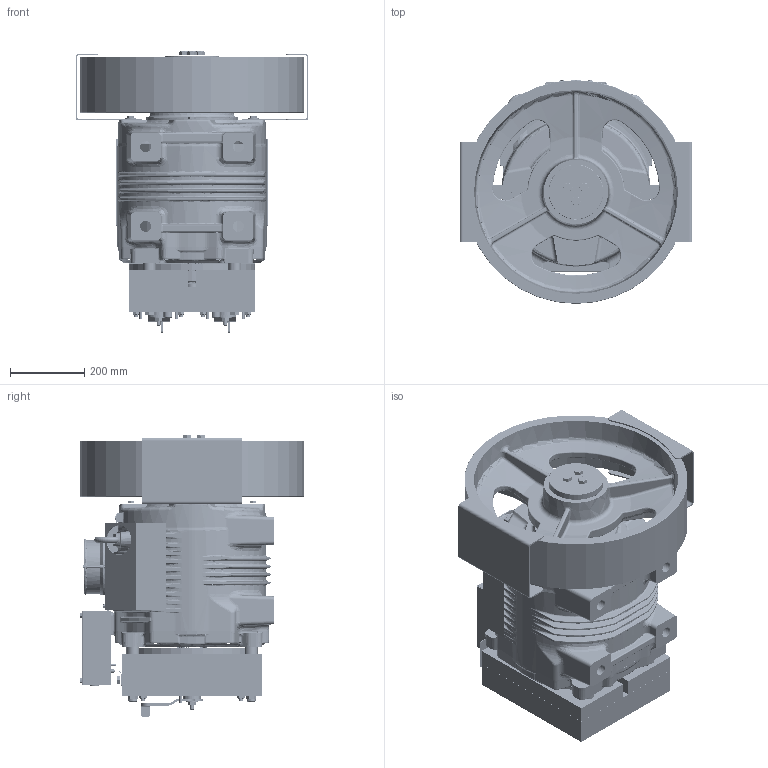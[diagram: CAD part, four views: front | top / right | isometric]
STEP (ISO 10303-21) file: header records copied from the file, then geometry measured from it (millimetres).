
FILE_DESCRIPTION((''),'2;1');
FILE_NAME('00363634_ASM','2020-06-16T',('furlanis'),('Sicor spa'),'CREO PARAMETRIC BY PTC INC, 2017170','CREO PARAMETRIC BY PTC INC, 2017170','');
FILE_SCHEMA(('CONFIG_CONTROL_DESIGN'));
Products named in the file (21): SG62_; _600_150; _600; 00261097; M4_FTT_L; M4_FTT_C; M3_FTT_C; 00261096_ASM; 00008906; 00024268; 00024286_ASM; 00024307; 00259719_M4X60; 00022368; 2080010002; VITI_TC_M4X25_VIT0066; VITI_TC_M3X16_VIT0064; TEM6X12_VIR0184; 00000263; 00268202_ASM; 00363634_ASM
Assembly tree (32 placements, depth 4):
  00363634_ASM
    SG62_
    _600_150
    _600  x2
    00268202_ASM
      00261096_ASM
        00261097
        M4_FTT_L  x2
        M4_FTT_C  x4
        M3_FTT_C  x2
      00024286_ASM
        00008906
        00024268
      00024307
      00259719_M4X60  x2
      00022368
      2080010002
      VITI_TC_M4X25_VIT0066  x2
      VITI_TC_M3X16_VIT0064  x2
      TEM6X12_VIR0184  x4
      00000263
Bounding box: 628 x 604 x 759.04 mm (x, y, z)
Volume: 15239834 mm3; surface area: 5671852.8 mm2
Topology: 28 solids, 207 shells, 5116 faces, 14114 edges, 8961 vertices
Faces by surface type: plane 1367, bspline 1232, cylinder 1225, torus 647, cone 569, sphere 76
Entity records: 260705 total; most frequent: CARTESIAN_POINT 150614, ORIENTED_EDGE 24212, DIRECTION 19186, EDGE_CURVE 13540, VERTEX_POINT 8654, AXIS2_PLACEMENT_3D 7619, B_SPLINE_CURVE_WITH_KNOTS 5705, EDGE_LOOP 5096
